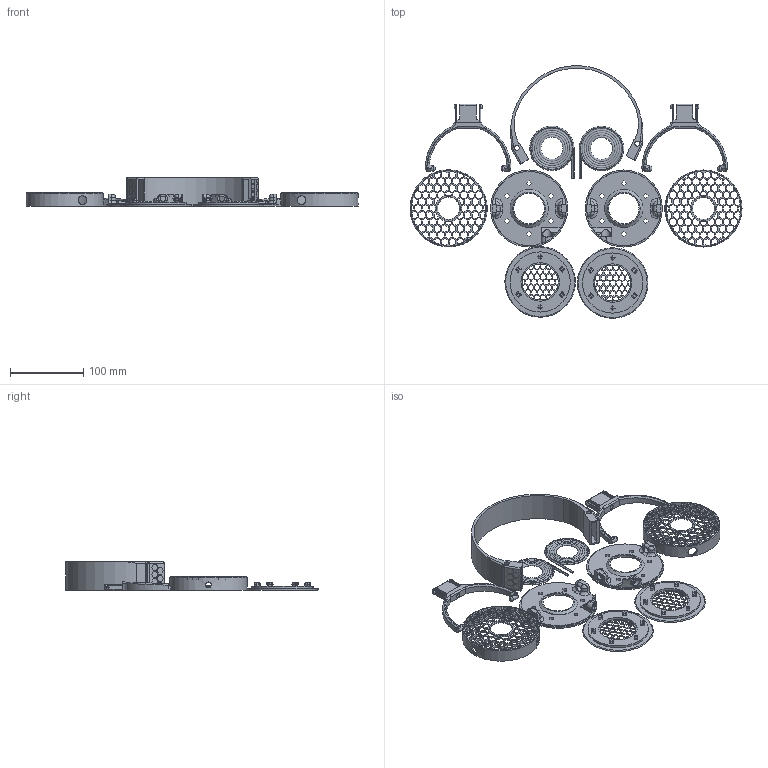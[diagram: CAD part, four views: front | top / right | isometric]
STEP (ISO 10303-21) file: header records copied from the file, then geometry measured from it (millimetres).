
FILE_DESCRIPTION(/* description */ ('','CAx-IF Rec.Pracs.---Representation and Presentation of Product Manufacturing Information (PMI)---4.0---2014-10-13'),/* implementation_level */ '2;1');
FILE_NAME(/* name */ 'PrusaBeat Headphone v2.step',/* time_stamp */ '2025-02-25T06:04:05-07:00',/* author */ (''),/* organization */ (''),/* preprocessor_version */ 'ST-DEVELOPER v20',/* originating_system */ 'Autodesk Translation Framework v13.20.0.188',/* authorisation */ '');
FILE_SCHEMA (('AP242_MANAGED_MODEL_BASED_3D_ENGINEERING_MIM_LF { 1 0 10303 442 1 1 4 }'));
Length unit declared in the file: millimetre
Products named in the file (1): PrusaBeat Headphone
Bounding box: 452.12 x 343.97 x 38.35 mm (x, y, z)
Volume: 233638.6 mm3; surface area: 183708.2 mm2
Topology: 11 solids, 11 shells, 2322 faces, 6950 edges, 4534 vertices
Faces by surface type: plane 1764, cylinder 386, bspline 68, sphere 64, torus 32, cone 8
Full cylindrical faces by diameter (mm): 6 x2, 6.5 x2, 6.7 x3, 6.94 x1, 7.5 x2, 8 x8, 12 x4, 30 x4, 49 x2, 50.25 x2, 52.25 x2, 82 x2, 101 x4, 105 x4
Entity records: 83166 total; most frequent: CARTESIAN_POINT 19474, ORIENTED_EDGE 13900, DIRECTION 12216, EDGE_CURVE 6950, LINE 5586, VECTOR 5586, VERTEX_POINT 4534, AXIS2_PLACEMENT_3D 3315
